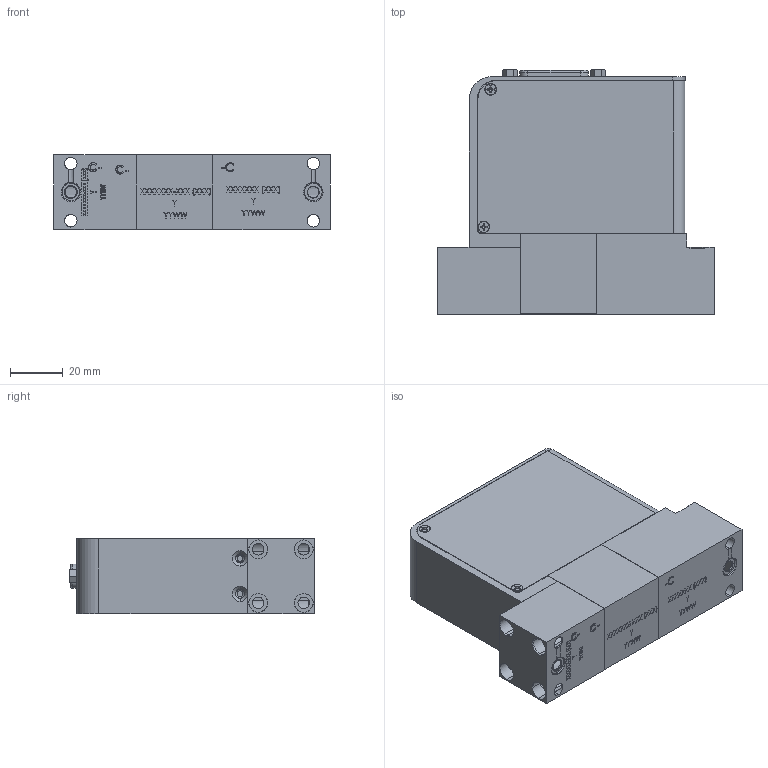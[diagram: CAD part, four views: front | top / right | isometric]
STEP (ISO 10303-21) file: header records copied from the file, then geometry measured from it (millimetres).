
FILE_DESCRIPTION (( 'STEP AP203' ), '1' );
FILE_NAME ('GF120XHT-CX.STEP', '2023-11-30T12:34:29', ( '' ), ( '' ), 'SwSTEP 2.0', 'SolidWorks 2020', '' );
FILE_SCHEMA (( 'CONFIG_CONTROL_DESIGN' ));
Length unit declared in the file: inch
Products named in the file (1): GF120XHT-CX
Bounding box: 104.95 x 92.91 x 28.52 mm (x, y, z)
Volume: 44428 mm3; surface area: 61163.8 mm2
Topology: 15 solids, 15 shells, 1796 faces, 4952 edges, 3280 vertices
Faces by surface type: plane 1027, cylinder 363, bspline 192, cone 184, torus 30
Entity records: 73349 total; most frequent: CARTESIAN_POINT 29160, ORIENTED_EDGE 9868, DIRECTION 8050, EDGE_CURVE 4934, VERTEX_POINT 3280, VECTOR 3048, LINE 3048, AXIS2_PLACEMENT_3D 2501
